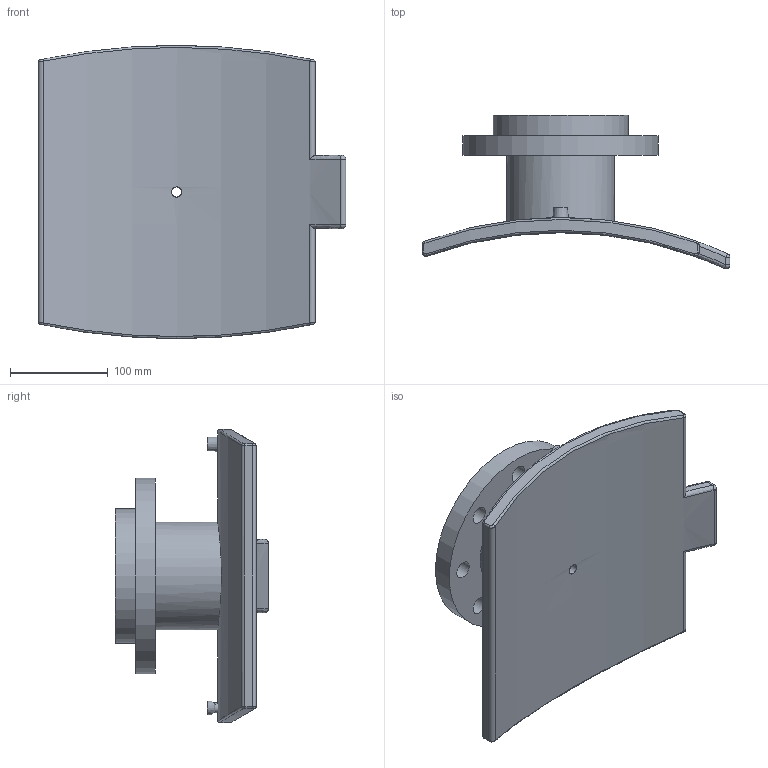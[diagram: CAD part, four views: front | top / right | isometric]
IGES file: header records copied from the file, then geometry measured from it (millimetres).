
Global section: file name: 495804400160T.ipt; native system: Autodesk Inventor 2015; preprocessor: unknown; author: KIM; date: 20171106.094359; units: millimetre
Bounding box: 315 x 157.15 x 300 mm (x, y, z)
Volume: 2292659.7 mm3; surface area: 316090.3 mm2
Topology: 2 solids, 2 shells, 75 faces, 164 edges, 103 vertices
Faces by surface type: cylinder 24, revolution 17, plane 16, bspline 12, sphere 4, cone 2
Full cylindrical faces by diameter (mm): 4 x2, 16 x1, 110.4 x1, 138 x1, 200 x1
